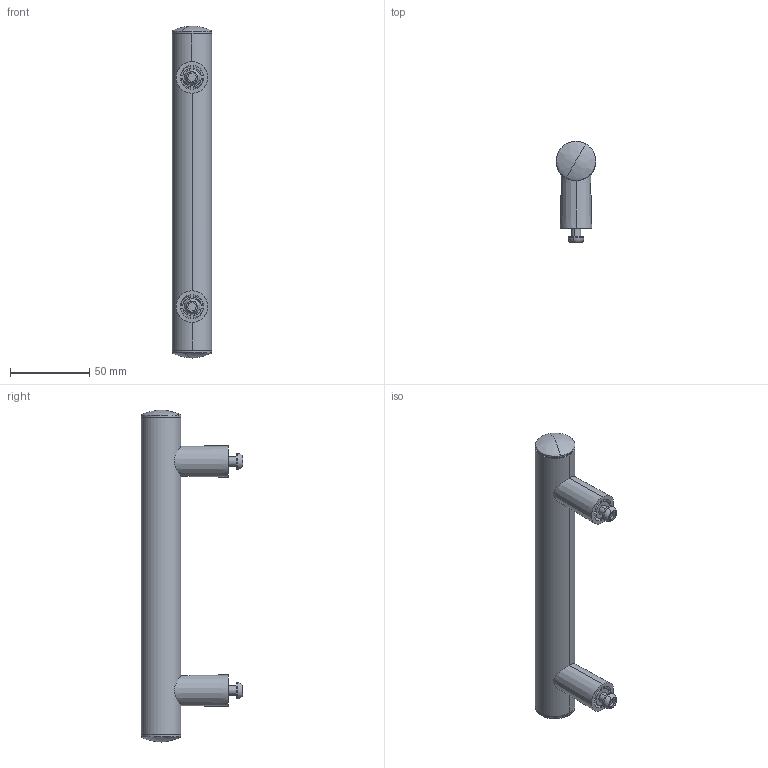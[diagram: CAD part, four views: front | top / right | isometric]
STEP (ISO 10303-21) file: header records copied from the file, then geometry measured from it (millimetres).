
FILE_DESCRIPTION (( 'STEP AP203' ), '1' );
FILE_NAME ('084.506.009.STEP', '2021-03-24T08:16:00', ( '' ), ( '' ), 'SwSTEP 2.0', 'SolidWorks 2018', '' );
FILE_SCHEMA (( 'CONFIG_CONTROL_DESIGN' ));
Length unit declared in the file: millimetre
Products named in the file (6): 084.506.009PA Tubo diam25 L200_Default<A macchina>; 084.506.009; 084.312.005; 084.506.009A; VITI TESTA BOMBATA ISO 730 INOX_M6x50 ISO 7380 INOX; 084.506.009B
Assembly tree (9 placements, depth 2):
  084.506.009
    084.506.009A  x2
    084.506.009B  x2
    084.506.009PA Tubo diam25 L200_Default<A macchina>
    084.312.005  x2
    VITI TESTA BOMBATA ISO 730 INOX_M6x50 ISO 7380 INOX  x2
Bounding box: 25 x 64 x 210 mm (x, y, z)
Volume: 46472.6 mm3; surface area: 51426.2 mm2
Topology: 9 solids, 9 shells, 246 faces, 624 edges, 404 vertices
Faces by surface type: cone 104, plane 96, cylinder 30, bspline 8, torus 8
Entity records: 5446 total; most frequent: CARTESIAN_POINT 1686, ORIENTED_EDGE 644, DIRECTION 628, EDGE_CURVE 322, AXIS2_PLACEMENT_3D 262, VERTEX_POINT 210, EDGE_LOOP 144, FACE_OUTER_BOUND 128
